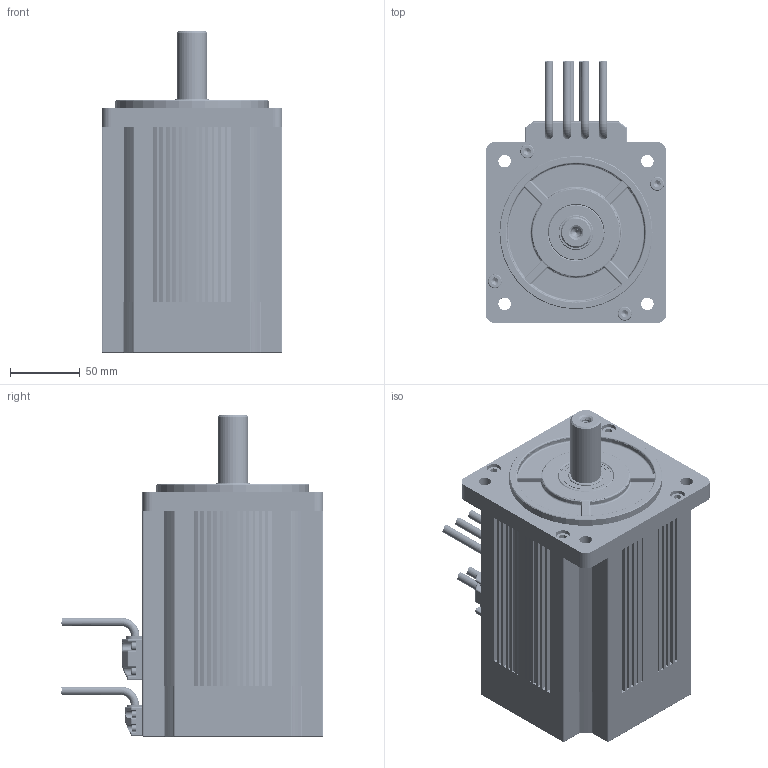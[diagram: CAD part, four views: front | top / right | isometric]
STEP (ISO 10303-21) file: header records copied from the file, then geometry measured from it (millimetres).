
FILE_DESCRIPTION (( 'STEP AP203' ), '1' );
FILE_NAME ('130L60-B-竘盄碟-4盄.STEP', '2022-07-30T08:15:55', ( 'muse' ), ( 'Organization' ), 'SwSTEP 2.0', 'SolidWorks 2018', '' );
FILE_SCHEMA (( 'CONFIG_CONTROL_DESIGN' ));
Products named in the file (1): 130L60-B-竘盄碟-4盄
Bounding box: 130 x 188.82 x 231 mm (x, y, z)
Volume: 933239.5 mm3; surface area: 378359.8 mm2
Topology: 32 solids, 32 shells, 4676 faces, 10245 edges, 5634 vertices
Faces by surface type: cone 1947, cylinder 1618, plane 694, bspline 180, torus 179, sphere 58
Entity records: 130711 total; most frequent: CARTESIAN_POINT 27907, DIRECTION 23401, ORIENTED_EDGE 20306, EDGE_CURVE 10153, AXIS2_PLACEMENT_3D 9232, VERTEX_POINT 5628, VECTOR 4937, LINE 4937
